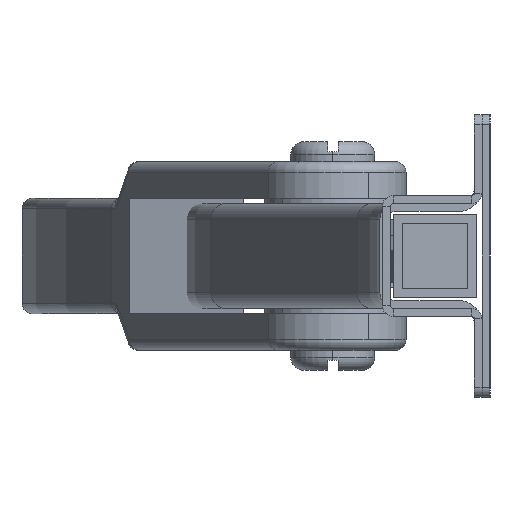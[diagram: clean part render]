
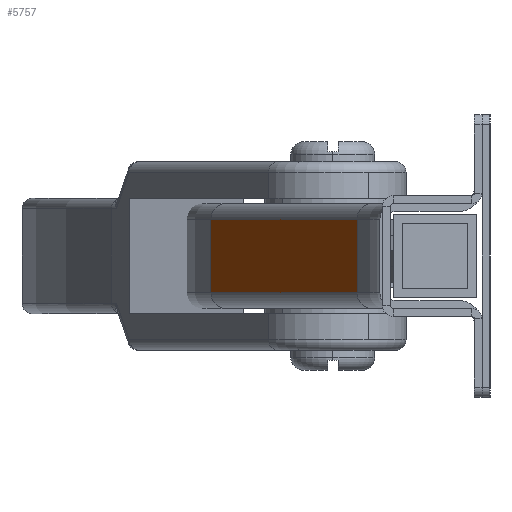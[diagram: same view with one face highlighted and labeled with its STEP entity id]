
A CAD part, left-side view. The second image highlights one B-rep face of the part: STEP entity #5757.
In plain terms, the highlighted planar face has unit normal (-0.408, 0.913, 0).
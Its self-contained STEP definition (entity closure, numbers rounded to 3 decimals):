
#361 = LINE ( 'NONE', #7577, #3039 ) ;
#535 = ORIENTED_EDGE ( 'NONE', *, *, #13439, .T. ) ;
#638 = CARTESIAN_POINT ( 'NONE',  ( -84.582, 25.359, 10. ) ) ;
#829 = DIRECTION ( 'NONE',  ( 0.913, 0.408, 0. ) ) ;
#1139 = EDGE_CURVE ( 'NONE', #5963, #8881, #12740, .T. ) ;
#1223 = EDGE_CURVE ( 'NONE', #11412, #8881, #361, .T. ) ;
#1497 = EDGE_LOOP ( 'NONE', ( #13685, #1920, #5235, #535 ) ) ;
#1785 = VECTOR ( 'NONE', #1974, 1000. ) ;
#1920 = ORIENTED_EDGE ( 'NONE', *, *, #1223, .T. ) ;
#1974 = DIRECTION ( 'NONE',  ( 0., 0., -1. ) ) ;
#2490 = LINE ( 'NONE', #9890, #1785 ) ;
#2593 = DIRECTION ( 'NONE',  ( 0.913, 0.408, 0. ) ) ;
#3039 = VECTOR ( 'NONE', #6449, 1000. ) ;
#3572 = FACE_OUTER_BOUND ( 'NONE', #1497, .T. ) ;
#4207 = CARTESIAN_POINT ( 'NONE',  ( -84.582, 25.359, 10. ) ) ;
#4956 = AXIS2_PLACEMENT_3D ( 'NONE', #4207, #7619, #829 ) ;
#5136 = CARTESIAN_POINT ( 'NONE',  ( -84.582, 25.359, -7. ) ) ;
#5235 = ORIENTED_EDGE ( 'NONE', *, *, #1139, .F. ) ;
#5496 = CARTESIAN_POINT ( 'NONE',  ( -22.226, 53.255, -7. ) ) ;
#5757 = ADVANCED_FACE ( 'NONE', ( #3572 ), #13224, .F. ) ;
#5892 = EDGE_CURVE ( 'NONE', #10167, #11412, #2490, .T. ) ;
#5963 = VERTEX_POINT ( 'NONE', #8908 ) ;
#6449 = DIRECTION ( 'NONE',  ( -0.913, -0.408, 0. ) ) ;
#7090 = LINE ( 'NONE', #8248, #9740 ) ;
#7577 = CARTESIAN_POINT ( 'NONE',  ( -84.582, 25.359, -7. ) ) ;
#7619 = DIRECTION ( 'NONE',  ( 0.408, -0.913, 0. ) ) ;
#8248 = CARTESIAN_POINT ( 'NONE',  ( -22.226, 53.255, 7. ) ) ;
#8881 = VERTEX_POINT ( 'NONE', #5136 ) ;
#8908 = CARTESIAN_POINT ( 'NONE',  ( -84.582, 25.359, 7. ) ) ;
#9740 = VECTOR ( 'NONE', #2593, 1000. ) ;
#9890 = CARTESIAN_POINT ( 'NONE',  ( -22.226, 53.255, 10. ) ) ;
#10167 = VERTEX_POINT ( 'NONE', #14368 ) ;
#11412 = VERTEX_POINT ( 'NONE', #5496 ) ;
#12740 = LINE ( 'NONE', #638, #13099 ) ;
#13031 = DIRECTION ( 'NONE',  ( 0., 0., -1. ) ) ;
#13099 = VECTOR ( 'NONE', #13031, 1000. ) ;
#13224 = PLANE ( 'NONE',  #4956 ) ;
#13439 = EDGE_CURVE ( 'NONE', #5963, #10167, #7090, .T. ) ;
#13685 = ORIENTED_EDGE ( 'NONE', *, *, #5892, .T. ) ;
#14368 = CARTESIAN_POINT ( 'NONE',  ( -22.226, 53.255, 7. ) ) ;
